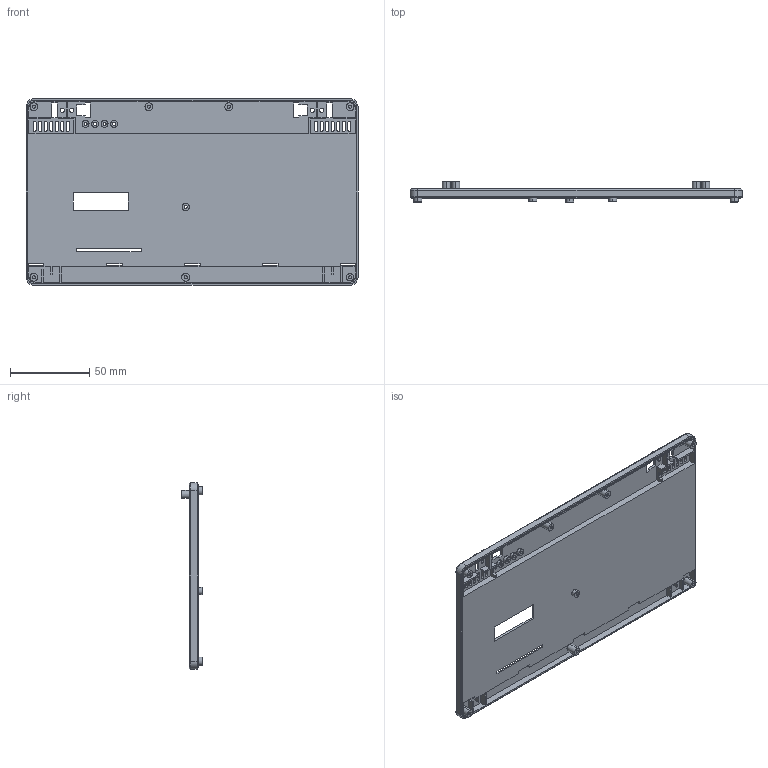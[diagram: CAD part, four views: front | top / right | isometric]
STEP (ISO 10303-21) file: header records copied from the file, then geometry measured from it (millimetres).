
FILE_DESCRIPTION (( 'STEP AP203' ), '1' );
FILE_NAME ('狟褲醱啣1.1.STEP', '2023-12-14T16:10:17', ( 'shan123' ), ( 'Razer' ), 'SwSTEP 2.0', 'SolidWorks 2018', '' );
FILE_SCHEMA (( 'CONFIG_CONTROL_DESIGN' ));
Length unit declared in the file: millimetre
Products named in the file (1): 狟褲醱啣1.1
Bounding box: 209.6 x 12.7 x 117.6 mm (x, y, z)
Volume: 46493.6 mm3; surface area: 60304.9 mm2
Topology: 1 solids, 1 shells, 363 faces, 1018 edges, 676 vertices
Faces by surface type: plane 225, cylinder 134, torus 4
Entity records: 11919 total; most frequent: CARTESIAN_POINT 2058, ORIENTED_EDGE 2036, DIRECTION 2024, EDGE_CURVE 1018, VECTOR 740, LINE 740, VERTEX_POINT 676, AXIS2_PLACEMENT_3D 642
